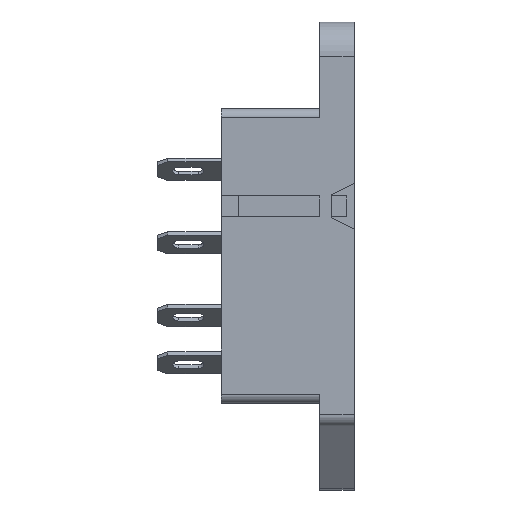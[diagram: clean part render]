
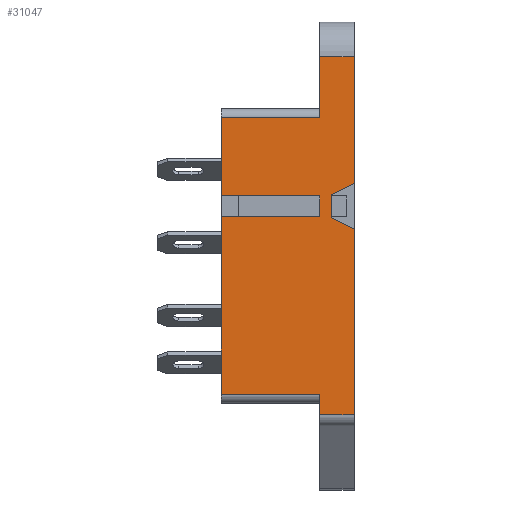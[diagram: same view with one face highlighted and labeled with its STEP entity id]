
A CAD part, left-side view. The second image highlights one B-rep face of the part: STEP entity #31047.
In plain terms, the highlighted planar face has unit normal (-1, 0, 0).
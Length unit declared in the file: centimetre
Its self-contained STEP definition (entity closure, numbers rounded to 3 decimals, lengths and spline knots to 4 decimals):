
#2477=FACE_OUTER_BOUND('',#3962,.T.);
#3962=EDGE_LOOP('',(#26645,#26646,#26647,#26648,#26649,#26650,#26651,#26652,
#26653,#26654,#26655,#26656,#26657,#26658,#26659,#26660));
#7583=LINE('',#48722,#11529);
#7593=LINE('',#48740,#11539);
#7602=LINE('',#48758,#11548);
#7604=LINE('',#48762,#11550);
#7606=LINE('',#48766,#11552);
#7610=LINE('',#48774,#11556);
#7614=LINE('',#48781,#11560);
#7615=LINE('',#48783,#11561);
#7616=LINE('',#48785,#11562);
#7617=LINE('',#48787,#11563);
#7618=LINE('',#48788,#11564);
#7619=LINE('',#48790,#11565);
#7620=LINE('',#48792,#11566);
#7621=LINE('',#48794,#11567);
#7622=LINE('',#48796,#11568);
#7623=LINE('',#48797,#11569);
#11529=VECTOR('',#39841,0.18);
#11539=VECTOR('',#39855,0.85);
#11548=VECTOR('',#39868,0.1997);
#11550=VECTOR('',#39872,0.2237);
#11552=VECTOR('',#39876,0.2237);
#11556=VECTOR('',#39884,0.85);
#11560=VECTOR('',#39890,1.095);
#11561=VECTOR('',#39891,0.3);
#11562=VECTOR('',#39892,0.53);
#11563=VECTOR('',#39893,0.85);
#11564=VECTOR('',#39894,0.675);
#11565=VECTOR('',#39895,1.535);
#11566=VECTOR('',#39896,0.85);
#11567=VECTOR('',#39897,0.18);
#11568=VECTOR('',#39898,0.3);
#11569=VECTOR('',#39899,1.605);
#14761=VERTEX_POINT('',#48719);
#14762=VERTEX_POINT('',#48721);
#14768=VERTEX_POINT('',#48738);
#14774=VERTEX_POINT('',#48755);
#14775=VERTEX_POINT('',#48757);
#14776=VERTEX_POINT('',#48761);
#14777=VERTEX_POINT('',#48765);
#14779=VERTEX_POINT('',#48773);
#14781=VERTEX_POINT('',#48780);
#14782=VERTEX_POINT('',#48782);
#14783=VERTEX_POINT('',#48784);
#14784=VERTEX_POINT('',#48786);
#14785=VERTEX_POINT('',#48789);
#14786=VERTEX_POINT('',#48791);
#14787=VERTEX_POINT('',#48793);
#14788=VERTEX_POINT('',#48795);
#18919=EDGE_CURVE('',#14762,#14761,#7583,.T.);
#18929=EDGE_CURVE('',#14761,#14768,#7593,.T.);
#18938=EDGE_CURVE('',#14775,#14774,#7602,.T.);
#18940=EDGE_CURVE('',#14776,#14775,#7604,.T.);
#18942=EDGE_CURVE('',#14774,#14777,#7606,.T.);
#18946=EDGE_CURVE('',#14779,#14762,#7610,.T.);
#18950=EDGE_CURVE('',#14781,#14777,#7614,.T.);
#18951=EDGE_CURVE('',#14781,#14782,#7615,.T.);
#18952=EDGE_CURVE('',#14783,#14782,#7616,.T.);
#18953=EDGE_CURVE('',#14784,#14783,#7617,.T.);
#18954=EDGE_CURVE('',#14779,#14784,#7618,.T.);
#18955=EDGE_CURVE('',#14785,#14768,#7619,.T.);
#18956=EDGE_CURVE('',#14786,#14785,#7620,.T.);
#18957=EDGE_CURVE('',#14787,#14786,#7621,.T.);
#18958=EDGE_CURVE('',#14788,#14787,#7622,.T.);
#18959=EDGE_CURVE('',#14776,#14788,#7623,.T.);
#26645=ORIENTED_EDGE('',*,*,#18938,.T.);
#26646=ORIENTED_EDGE('',*,*,#18942,.T.);
#26647=ORIENTED_EDGE('',*,*,#18950,.F.);
#26648=ORIENTED_EDGE('',*,*,#18951,.T.);
#26649=ORIENTED_EDGE('',*,*,#18952,.F.);
#26650=ORIENTED_EDGE('',*,*,#18953,.F.);
#26651=ORIENTED_EDGE('',*,*,#18954,.F.);
#26652=ORIENTED_EDGE('',*,*,#18946,.T.);
#26653=ORIENTED_EDGE('',*,*,#18919,.T.);
#26654=ORIENTED_EDGE('',*,*,#18929,.T.);
#26655=ORIENTED_EDGE('',*,*,#18955,.F.);
#26656=ORIENTED_EDGE('',*,*,#18956,.F.);
#26657=ORIENTED_EDGE('',*,*,#18957,.F.);
#26658=ORIENTED_EDGE('',*,*,#18958,.F.);
#26659=ORIENTED_EDGE('',*,*,#18959,.F.);
#26660=ORIENTED_EDGE('',*,*,#18940,.T.);
#29643=PLANE('',#32995);
#31047=ADVANCED_FACE('',(#2477),#29643,.T.);
#32995=AXIS2_PLACEMENT_3D('',#48779,#39888,#39889);
#39841=DIRECTION('',(0.,0.,-1.));
#39855=DIRECTION('',(0.,1.,0.));
#39868=DIRECTION('',(0.,0.,1.));
#39872=DIRECTION('',(0.,0.894,0.448));
#39876=DIRECTION('',(0.,-0.894,0.448));
#39884=DIRECTION('',(0.,-1.,0.));
#39888=DIRECTION('center_axis',(-1.,0.,0.));
#39889=DIRECTION('ref_axis',(0.,0.,1.));
#39890=DIRECTION('',(0.,0.,-1.));
#39891=DIRECTION('',(0.,1.,0.));
#39892=DIRECTION('',(0.,0.,1.));
#39893=DIRECTION('',(0.,-1.,0.));
#39894=DIRECTION('',(0.,0.,1.));
#39895=DIRECTION('',(0.,0.,1.));
#39896=DIRECTION('',(0.,1.,0.));
#39897=DIRECTION('',(0.,0.,1.));
#39898=DIRECTION('',(0.,1.,0.));
#39899=DIRECTION('',(0.,0.,-1.));
#48719=CARTESIAN_POINT('',(-2.1261,0.0843,0.34));
#48721=CARTESIAN_POINT('',(-2.1261,0.0843,0.52));
#48722=CARTESIAN_POINT('',(-2.1261,0.0843,0.52));
#48738=CARTESIAN_POINT('',(-2.1261,0.9343,0.34));
#48740=CARTESIAN_POINT('',(-2.1261,0.3593,0.34));
#48755=CARTESIAN_POINT('',(-2.1261,-0.0157,0.5298));
#48757=CARTESIAN_POINT('',(-2.1261,-0.0157,0.3302));
#48758=CARTESIAN_POINT('',(-2.1261,-0.0157,-0.4726));
#48761=CARTESIAN_POINT('',(-2.1261,-0.2157,0.23));
#48762=CARTESIAN_POINT('',(-2.1261,-0.457,0.1092));
#48765=CARTESIAN_POINT('',(-2.1261,-0.2157,0.63));
#48766=CARTESIAN_POINT('',(-2.1261,0.2056,0.419));
#48773=CARTESIAN_POINT('',(-2.1261,0.9343,0.52));
#48774=CARTESIAN_POINT('',(-2.1261,0.3593,0.52));
#48779=CARTESIAN_POINT('Origin',(-2.1261,-0.2157,-1.475));
#48780=CARTESIAN_POINT('',(-2.1261,-0.2157,1.725));
#48781=CARTESIAN_POINT('',(-2.1261,-0.2157,1.475));
#48782=CARTESIAN_POINT('',(-2.1261,0.0843,1.725));
#48783=CARTESIAN_POINT('',(-2.1261,-0.2157,1.725));
#48784=CARTESIAN_POINT('',(-2.1261,0.0843,1.195));
#48785=CARTESIAN_POINT('',(-2.1261,0.0843,-0.05));
#48786=CARTESIAN_POINT('',(-2.1261,0.9343,1.195));
#48787=CARTESIAN_POINT('',(-2.1261,0.3593,1.195));
#48788=CARTESIAN_POINT('',(-2.1261,0.9343,1.475));
#48789=CARTESIAN_POINT('',(-2.1261,0.9343,-1.195));
#48790=CARTESIAN_POINT('',(-2.1261,0.9343,1.475));
#48791=CARTESIAN_POINT('',(-2.1261,0.0843,-1.195));
#48792=CARTESIAN_POINT('',(-2.1261,0.3593,-1.195));
#48793=CARTESIAN_POINT('',(-2.1261,0.0843,-1.375));
#48794=CARTESIAN_POINT('',(-2.1261,0.0843,-1.425));
#48795=CARTESIAN_POINT('',(-2.1261,-0.2157,-1.375));
#48796=CARTESIAN_POINT('',(-2.1261,-0.2157,-1.375));
#48797=CARTESIAN_POINT('',(-2.1261,-0.2157,1.475));
